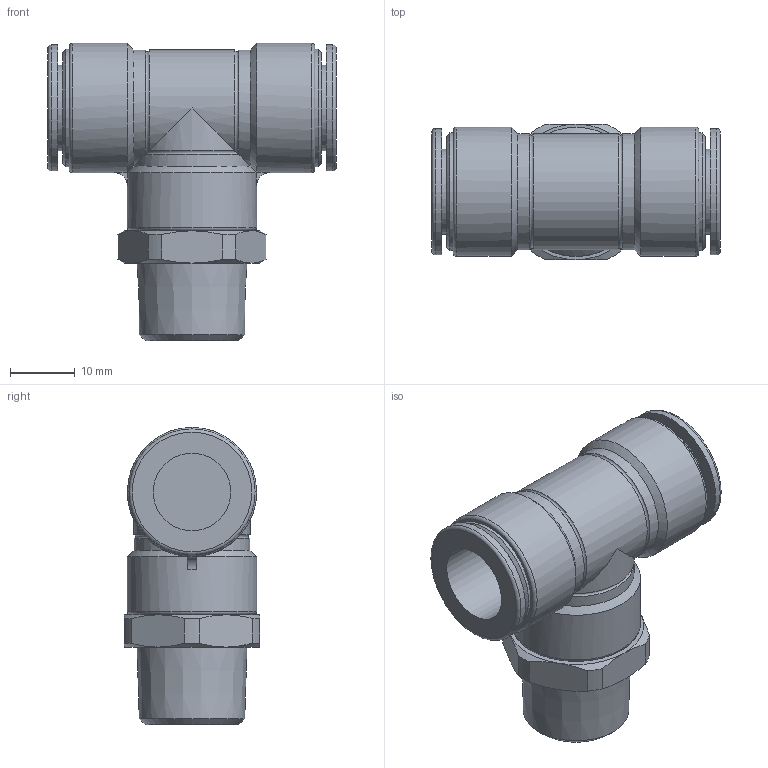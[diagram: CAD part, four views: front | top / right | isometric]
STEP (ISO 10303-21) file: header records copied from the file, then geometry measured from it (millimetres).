
FILE_DESCRIPTION(/* description */ (''),/* implementation_level */ '2;1');
FILE_NAME(/* name */ 'E:\2013年度版　3D-DATA\【02】 TOUCH CONNECTOR FIVE SUS\[03] MALE BRANCH TEE\[16] FS12-03MT FS12-03MTW.stp',/* time_stamp */ '2013-08-06T16:52:01+09:00',/* author */ ('takahashi-pc2'),/* organization */ (''),/* preprocessor_version */ 'ST-DEVELOPER v15.2',/* originating_system */ 'Autodesk Inventor 2014',/* authorisation */ '');
FILE_SCHEMA (('AUTOMOTIVE_DESIGN { 1 0 10303 214 3 1 1 }'));
Length unit declared in the file: millimetre
Products named in the file (1): [16] FS12-03MT FS12-03MTW
Bounding box: 44.6 x 21 x 46 mm (x, y, z)
Volume: 16830.7 mm3; surface area: 6968.7 mm2
Topology: 1 solids, 1 shells, 86 faces, 194 edges, 120 vertices
Faces by surface type: plane 31, cylinder 26, cone 20, torus 9
Full cylindrical faces by diameter (mm): 12 x2, 13.2 x2, 18.2 x2, 19.5 x2, 20 x3
Entity records: 2355 total; most frequent: CARTESIAN_POINT 531, DIRECTION 396, ORIENTED_EDGE 346, AXIS2_PLACEMENT_3D 176, EDGE_CURVE 173, VERTEX_POINT 119, EDGE_LOOP 116, ADVANCED_FACE 86
